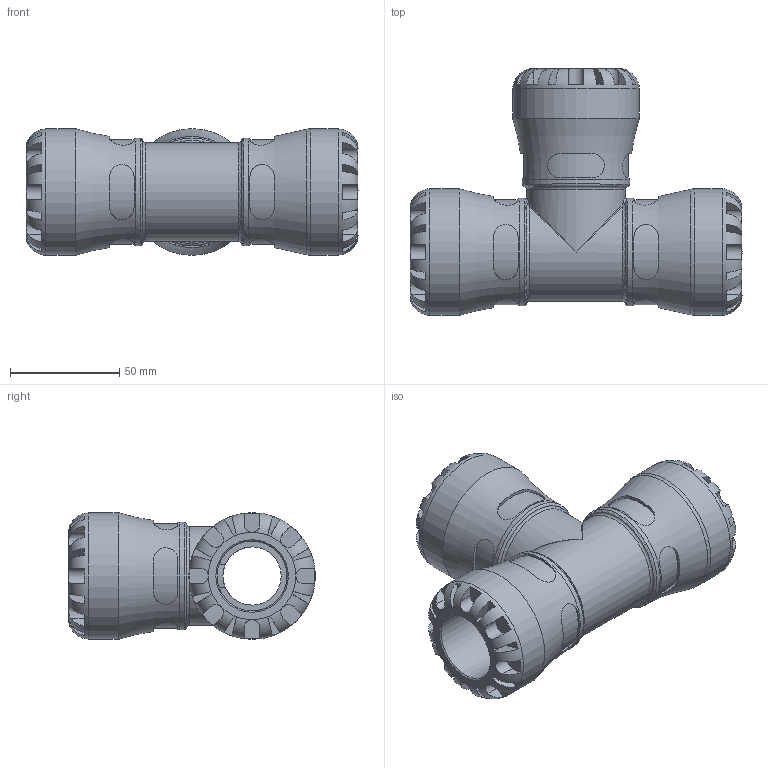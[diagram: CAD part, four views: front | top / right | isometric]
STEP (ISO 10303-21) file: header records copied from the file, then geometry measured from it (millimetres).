
FILE_DESCRIPTION(/* description */ ('PLASSON TEE 32X32X32 SERIES 1'),/* implementation_level */ '2;1');
FILE_NAME(/* name */ 'C:\Dropbox\KIMPROJECTS-Inventor\99-16-3568-Processing\S1\1004\100400032_190400032.ipt.stp',/* time_stamp */ '2018-02-11T12:57:36+02:00',/* author */ ('KIM'),/* organization */ (''),/* preprocessor_version */ 'ST-DEVELOPER v15.6',/* originating_system */ 'Autodesk Inventor 2015',/* authorisation */ '');
FILE_SCHEMA (('AUTOMOTIVE_DESIGN { 1 0 10303 214 3 1 1 }'));
Length unit declared in the file: millimetre
Products named in the file (1): 100400032_190400032
Bounding box: 152 x 113 x 58 mm (x, y, z)
Volume: 279392.8 mm3; surface area: 65082.9 mm2
Topology: 1 solids, 1 shells, 298 faces, 768 edges, 477 vertices
Faces by surface type: plane 174, cylinder 99, torus 13, bspline 10, cone 2
Full cylindrical faces by diameter (mm): 26.667 x2, 32 x3, 45.24 x1, 49.3 x3, 58 x3
Entity records: 11979 total; most frequent: CARTESIAN_POINT 4999, ORIENTED_EDGE 1432, DIRECTION 1350, EDGE_CURVE 716, AXIS2_PLACEMENT_3D 553, VERTEX_POINT 458, EDGE_LOOP 340, FACE_OUTER_BOUND 298
